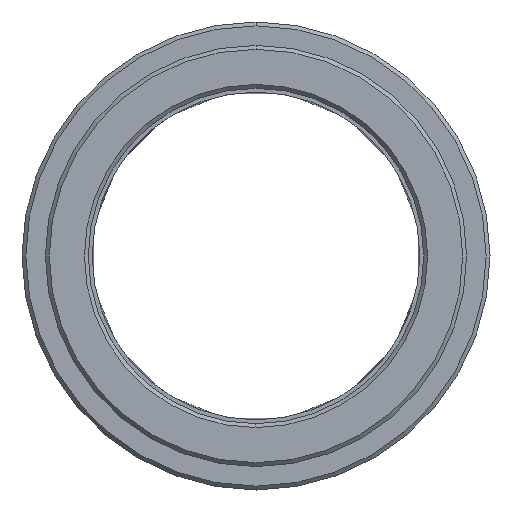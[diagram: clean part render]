
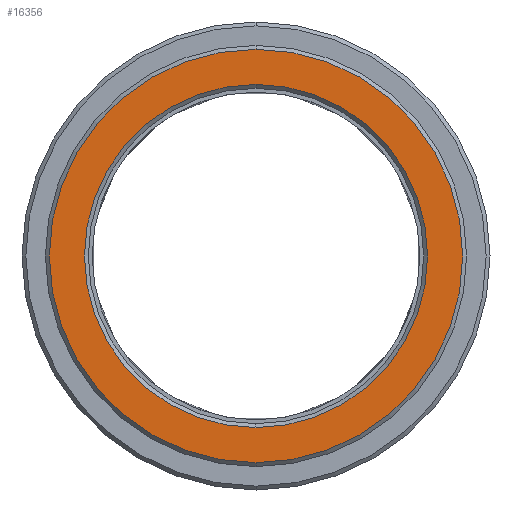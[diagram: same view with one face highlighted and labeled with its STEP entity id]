
A CAD part, left-side view. The second image highlights one B-rep face of the part: STEP entity #16356.
In plain terms, the highlighted planar face has unit normal (-1, 0, 0).
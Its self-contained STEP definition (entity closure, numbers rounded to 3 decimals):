
#6662=CARTESIAN_POINT('',(-10.,0.,
0.));
#6663=DIRECTION('',(1.,0.,0.));
#6664=DIRECTION('',(0.,0.,1.));
#6665=AXIS2_PLACEMENT_3D('',#6662,#6663,#6664);
#6667=CARTESIAN_POINT('',(-10.,0.,
0.));
#6668=DIRECTION('',(1.,0.,0.));
#6669=DIRECTION('',(0.,0.,-1.));
#6670=AXIS2_PLACEMENT_3D('',#6667,#6668,#6669);
#6672=CARTESIAN_POINT('',(-10.,0.,0.));
#6673=DIRECTION('',(1.,0.,0.));
#6674=DIRECTION('',(0.,0.,1.));
#6675=AXIS2_PLACEMENT_3D('',#6672,#6673,#6674);
#6677=CARTESIAN_POINT('',(-10.,0.,
0.));
#6678=DIRECTION('',(1.,0.,0.));
#6679=DIRECTION('',(0.,0.,-1.));
#6680=AXIS2_PLACEMENT_3D('',#6677,#6678,#6679);
#14068=CARTESIAN_POINT('',(-10.,0.,22.));
#14069=CARTESIAN_POINT('',(-10.,0.,
-22.));
#14070=VERTEX_POINT('',#14068);
#14071=VERTEX_POINT('',#14069);
#14076=CARTESIAN_POINT('',(-10.,0.,26.5));
#14077=CARTESIAN_POINT('',(-10.,0.,
-26.5));
#14078=VERTEX_POINT('',#14076);
#14079=VERTEX_POINT('',#14077);
#16340=CARTESIAN_POINT('',(-10.,0.,0.));
#16341=DIRECTION('',(1.,0.,0.));
#16342=DIRECTION('',(0.,0.,1.));
#16343=AXIS2_PLACEMENT_3D('',#16340,#16341,#16342);
#16344=PLANE('',#16343);
#16346=ORIENTED_EDGE('',*,*,#16345,.T.);
#16348=ORIENTED_EDGE('',*,*,#16347,.T.);
#16349=EDGE_LOOP('',(#16346,#16348));
#16350=FACE_OUTER_BOUND('',#16349,.F.);
#16351=ORIENTED_EDGE('',*,*,#16330,.F.);
#16353=ORIENTED_EDGE('',*,*,#16352,.F.);
#16354=EDGE_LOOP('',(#16351,#16353));
#16355=FACE_BOUND('',#16354,.F.);
#16356=ADVANCED_FACE('',(#16350,#16355),#16344,.F.);
#6666=CIRCLE('',#6665,26.5);
#6671=CIRCLE('',#6670,26.5);
#6676=CIRCLE('',#6675,22.);
#6681=CIRCLE('',#6680,22.);
#16330=EDGE_CURVE('',#14070,#14071,#6676,.T.);
#16345=EDGE_CURVE('',#14078,#14079,#6666,.T.);
#16347=EDGE_CURVE('',#14079,#14078,#6671,.T.);
#16352=EDGE_CURVE('',#14071,#14070,#6681,.T.);
